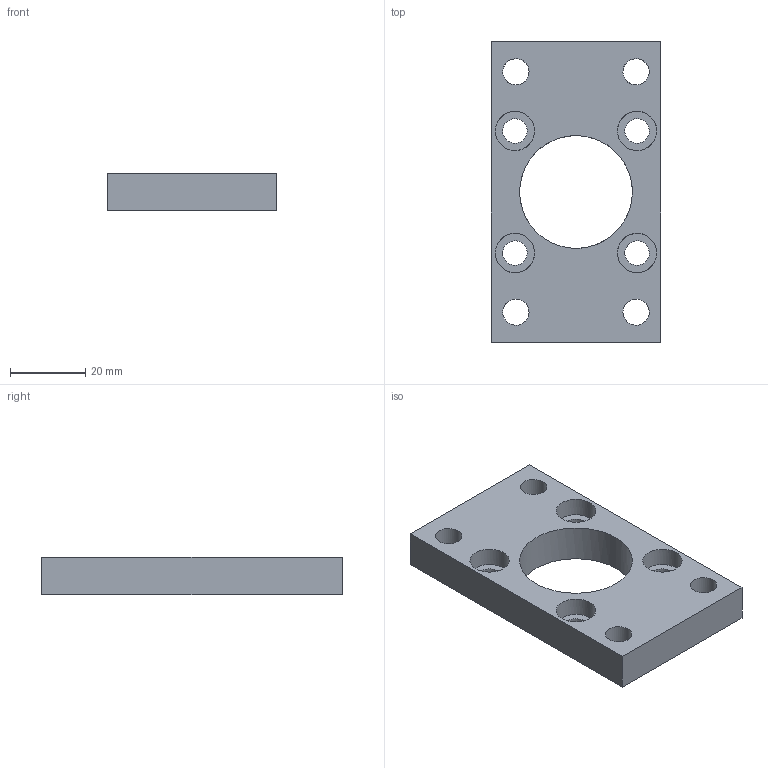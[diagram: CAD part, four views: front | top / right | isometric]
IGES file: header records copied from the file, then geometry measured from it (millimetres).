
Global section: file name: 1325_032_03F; native system: Autodesk Inventor 2014; preprocessor: unknown; author: A. Manieri; organization: Pneumax S.p.A.; date: 20161007.115404; units: millimetre
Bounding box: 45 x 80 x 10 mm (x, y, z)
Volume: 24984.9 mm3; surface area: 10607.2 mm2
Topology: 1 solids, 1 shells, 23 faces, 59 edges, 42 vertices
Faces by surface type: bspline 23
